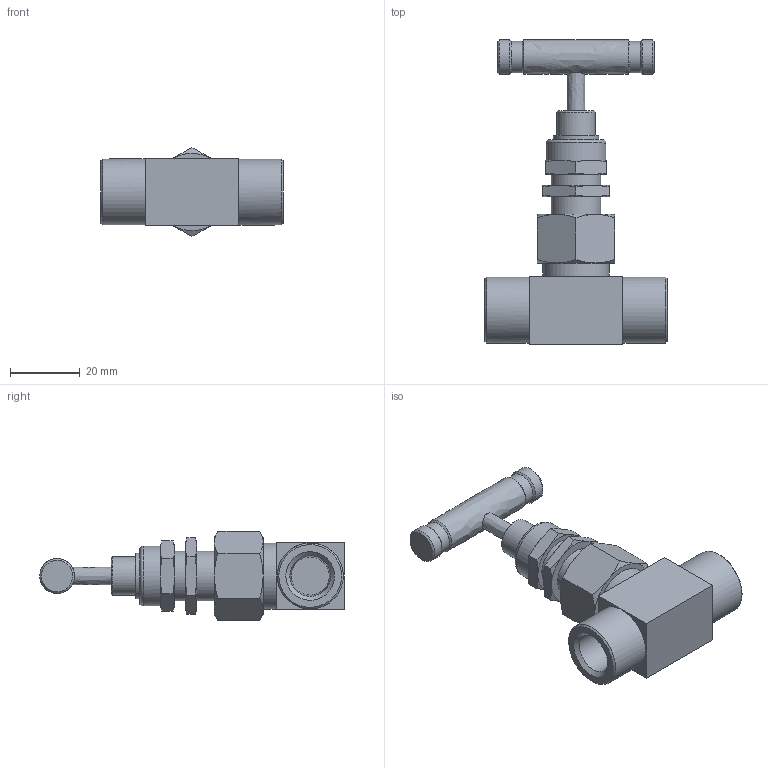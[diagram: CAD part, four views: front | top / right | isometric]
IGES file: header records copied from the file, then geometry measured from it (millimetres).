
Global section: file name: SUNV1-F4N-S316; native system: Autodesk Inventor 2016; preprocessor: unknown; author: 이승민,,11,0; organization: 20161215.102657; date: 20161216.192626; units: millimetre
Bounding box: 52.4 x 87.54 x 25.66 mm (x, y, z)
Volume: 30670.4 mm3; surface area: 12700 mm2
Topology: 2 solids, 2 shells, 124 faces, 299 edges, 198 vertices
Faces by surface type: bspline 124
